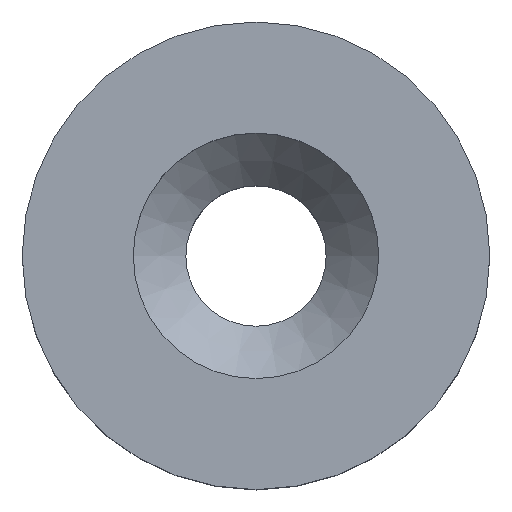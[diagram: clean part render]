
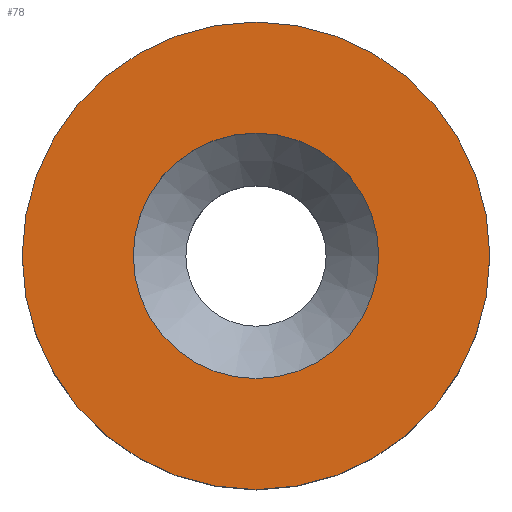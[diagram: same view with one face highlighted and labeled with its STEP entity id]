
A CAD part, top view. The second image highlights one B-rep face of the part: STEP entity #78.
In plain terms, the highlighted planar face has unit normal (0, 0, 1).
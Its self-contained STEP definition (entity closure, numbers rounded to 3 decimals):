
#14=PLANE('',#93);
#23=FACE_BOUND('',#39,.T.);
#24=FACE_BOUND('',#40,.T.);
#39=EDGE_LOOP('',(#69));
#40=EDGE_LOOP('',(#70));
#45=CIRCLE('',#87,3.15);
#47=CIRCLE('',#91,6.);
#51=VERTEX_POINT('',#128);
#53=VERTEX_POINT('',#134);
#57=EDGE_CURVE('',#51,#51,#45,.T.);
#59=EDGE_CURVE('',#53,#53,#47,.T.);
#69=ORIENTED_EDGE('',*,*,#57,.T.);
#70=ORIENTED_EDGE('',*,*,#59,.F.);
#78=ADVANCED_FACE('',(#23,#24),#14,.F.);
#87=AXIS2_PLACEMENT_3D('',#129,#105,#106);
#91=AXIS2_PLACEMENT_3D('',#135,#113,#114);
#93=AXIS2_PLACEMENT_3D('',#138,#117,#118);
#105=DIRECTION('center_axis',(0.,0.,-1.));
#106=DIRECTION('ref_axis',(-1.,0.,0.));
#113=DIRECTION('center_axis',(0.,0.,-1.));
#114=DIRECTION('ref_axis',(-1.,0.,0.));
#117=DIRECTION('center_axis',(0.,0.,-1.));
#118=DIRECTION('ref_axis',(-1.,0.,0.));
#128=CARTESIAN_POINT('',(-3.15,0.,5.));
#129=CARTESIAN_POINT('Origin',(0.,0.,5.));
#134=CARTESIAN_POINT('',(6.,0.,5.));
#135=CARTESIAN_POINT('Origin',(0.,0.,5.));
#138=CARTESIAN_POINT('Origin',(0.,0.,5.));
